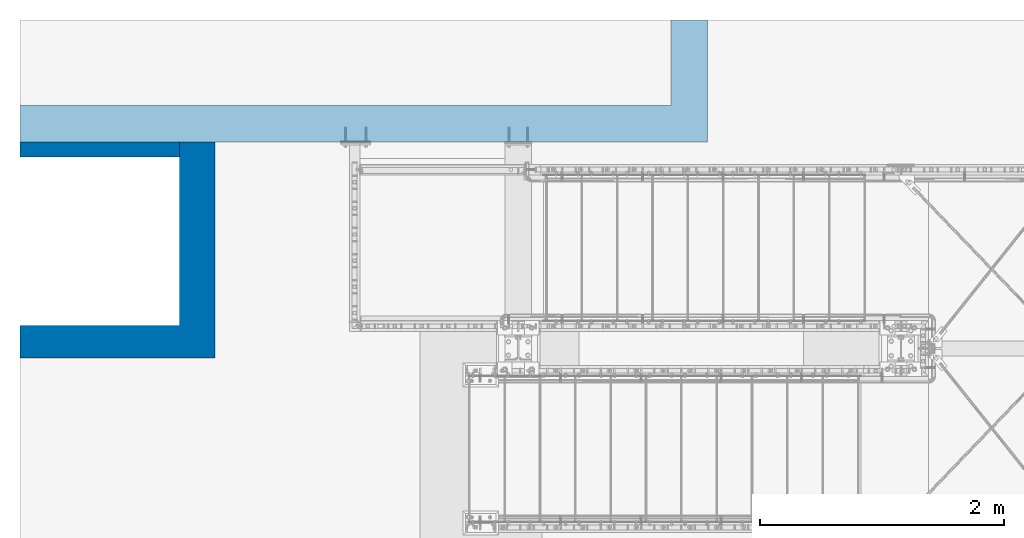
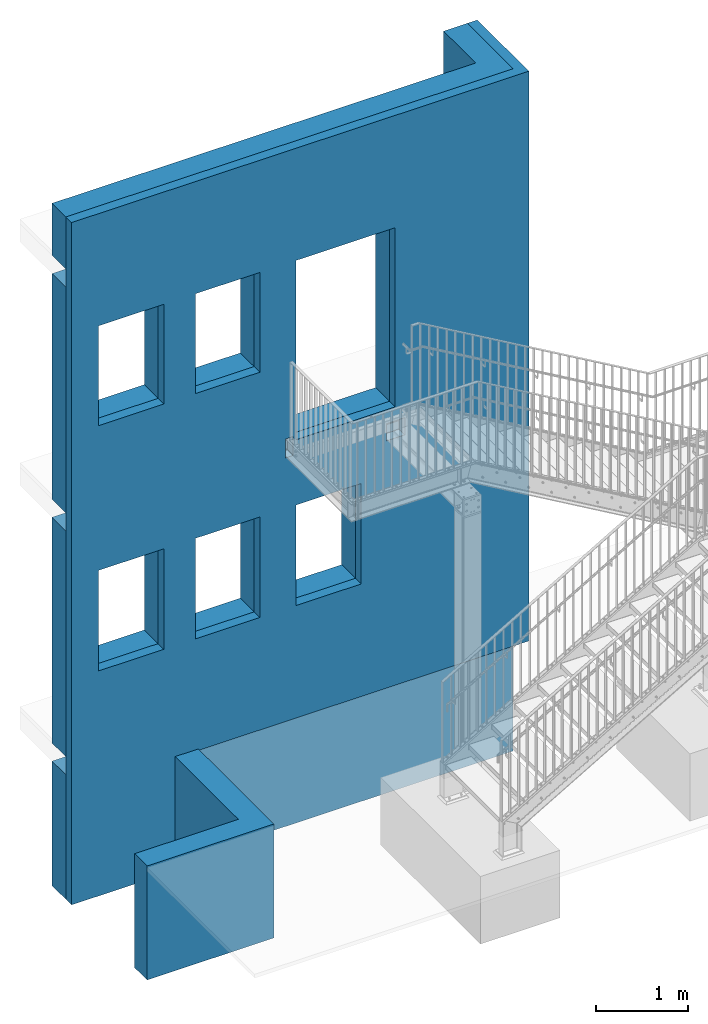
# One storey, part 28 of 145: 3 walls, 22 openings.
"""IFC2X3 building model written with IfcOpenShell, lengths in millimetres."""

from ifc_helpers import new_model, entity, si_unit, converted_unit, frame, origin, origin_with_axes, place, context, project, spatial, polyline, outline, extrude, material, layer, layer_set, element, save


model = new_model("IFC2X3")

# Units and contexts
model_context = context("Model", 3, precision=1e-09, world=origin_with_axes())
ifc_project = project(units=[si_unit("LENGTHUNIT", "METRE", prefix="MILLI"), si_unit("AREAUNIT", "SQUARE_METRE"), si_unit("VOLUMEUNIT", "CUBIC_METRE"), converted_unit("PLANEANGLEUNIT", "DEGREE", entity("IfcPlaneAngleMeasure", 0.01745329), si_unit("PLANEANGLEUNIT", "RADIAN"), dimensions=[0, 0, 0, 0, 0, 0, 0])], contexts=[model_context])

# Site, building, storey
site_placement = place(None, origin_with_axes())
site = spatial("IfcSite", under=ifc_project, at=site_placement, Name="BZ1 Grund- und Mittelschule 85716 Unterschlei?heim", CompositionType="ELEMENT")
building_placement = place(site_placement, origin_with_axes())
building = spatial("IfcBuilding", under=site, at=building_placement, Name="Struktur 1", CompositionType="ELEMENT")
storey_placement = place(building_placement, origin_with_axes())
storey = spatial("IfcBuildingStorey", under=building, at=storey_placement, Name="Default Storey", CompositionType="ELEMENT", Elevation=0.0)

# Wall, openings
ifc_material = material(Name="C25/30")
ifc_layer_1 = layer(ifc_material, 1125.0)
ifc_layer_set_1 = layer_set([ifc_layer_1], Name="C25/30")
wall_1_placement = place(None, frame((15866.648972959, -125.0, 2587.974536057), z_axis=(0.0, 1.0, 0.0), x_axis=(-1.0, 0.0, 0.0)))
wall_1 = element("IfcWall", 1, at=wall_1_placement, inside=storey, material=ifc_layer_set_1, Name="Gokoba_D?mmung", ObjectType="Gokoba_D?mmung", context=model_context, shape_type="SweptSolid", body=[
    extrude(outline(polyline([(-2883.195754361, -4547.974536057), (2883.195754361, -4547.974536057), (2883.195754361, 4547.974536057), (-2883.195754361, 4547.974536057), (-2883.195754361, -4547.974536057)])), origin_with_axes(), (0.0, 0.0, 1.0), 1125.0),
])
opening_1_placement = place(wall_1_placement, frame((0.0, -4548.074536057, 562.5), z_axis=(0.0, 1.0, 0.0), x_axis=(-1.0, 0.0, 0.0)))
element("IfcOpeningElement", 2, at=opening_1_placement, cuts=wall_1, ObjectType="Opening", context=model_context, shape_type="SweptSolid", body=[
    extrude(outline(polyline([(-4000.690652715, -437.501), (2758.196754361, -437.501), (2758.196754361, 1320.4875142), (-4000.690652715, 1320.4875142), (-4000.690652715, -437.501)])), origin(), (0.0, 0.0, 1.0), 9096.149072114),
])
opening_2_placement = place(wall_1_placement, frame((0.0, 0.0, 1125.1), z_axis=(0.0, 0.0, -1.0), x_axis=(-1.0, 0.0, 0.0)))
element("IfcOpeningElement", 3, at=opening_2_placement, cuts=wall_1, ObjectType="Opening", context=model_context, shape_type="SweptSolid", body=[
    extrude(outline(polyline([(-51.804245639, 662.024463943), (1198.197754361, 662.024463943), (1198.197754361, 3052.026463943), (-51.804245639, 3052.026463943), (-51.804245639, 662.024463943)])), origin(), (0.0, 0.0, 1.0), 1125.2),
])
opening_3_placement = place(wall_1_placement, frame((0.0, 0.0, 1125.1), z_axis=(0.0, 0.0, -1.0), x_axis=(-1.0, 0.0, 0.0)))
element("IfcOpeningElement", 4, at=opening_3_placement, cuts=wall_1, ObjectType="Opening", context=model_context, shape_type="SweptSolid", body=[
    extrude(outline(polyline([(-1321.792940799, 1722.024463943), (-508.998175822, 1722.024463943), (-508.998175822, 3052.026463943), (-1321.792940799, 3052.026463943), (-1321.792940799, 1722.024463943)])), origin(), (0.0, 0.0, 1.0), 1125.2),
])
opening_4_placement = place(wall_1_placement, frame((0.0, 0.0, 1125.1), z_axis=(0.0, 0.0, -1.0), x_axis=(-1.0, 0.0, 0.0)))
element("IfcOpeningElement", 5, at=opening_4_placement, cuts=wall_1, ObjectType="Opening", context=model_context, shape_type="SweptSolid", body=[
    extrude(outline(polyline([(-2540.845664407, 1722.024463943), (-1719.72073216, 1722.024463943), (-1719.72073216, 3052.026463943), (-2540.845664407, 3052.026463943), (-2540.845664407, 1722.024463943)])), origin(), (0.0, 0.0, 1.0), 1125.2),
])
opening_5_placement = place(wall_1_placement, frame((0.0, 0.0, 1125.1), z_axis=(0.0, 0.0, -1.0), x_axis=(-1.0, 0.0, 0.0)))
element("IfcOpeningElement", 6, at=opening_5_placement, cuts=wall_1, ObjectType="Opening", context=model_context, shape_type="SweptSolid", body=[
    extrude(outline(polyline([(-2540.845664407, -1547.975536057), (-1719.72073216, -1547.975536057), (-1719.72073216, -207.973536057), (-2540.845664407, -207.973536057), (-2540.845664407, -1547.975536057)])), origin(), (0.0, 0.0, 1.0), 1125.2),
])
opening_6_placement = place(wall_1_placement, frame((0.0, 0.0, 1125.1), z_axis=(0.0, 0.0, -1.0), x_axis=(-1.0, 0.0, 0.0)))
element("IfcOpeningElement", 7, at=opening_6_placement, cuts=wall_1, ObjectType="Opening", context=model_context, shape_type="SweptSolid", body=[
    extrude(outline(polyline([(-1321.792940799, -1547.975536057), (-508.998175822, -1547.975536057), (-508.998175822, -207.973536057), (-1321.792940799, -207.973536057), (-1321.792940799, -1547.975536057)])), origin(), (0.0, 0.0, 1.0), 1125.2),
])
opening_7_placement = place(wall_1_placement, frame((0.0, 0.0, 1125.1), z_axis=(0.0, 0.0, -1.0), x_axis=(-1.0, 0.0, 0.0)))
element("IfcOpeningElement", 8, at=opening_7_placement, cuts=wall_1, ObjectType="Opening", context=model_context, shape_type="SweptSolid", body=[
    extrude(outline(polyline([(-51.804245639, -1547.975536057), (769.457111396, -1547.975536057), (769.457111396, -207.973536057), (-51.804245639, -207.973536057), (-51.804245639, -1547.975536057)])), origin(), (0.0, 0.0, 1.0), 1125.2),
])
opening_8_placement = place(wall_1_placement, frame((0.0, 0.0, 1125.1), z_axis=(0.0, 0.0, -1.0), x_axis=(-1.0, 0.0, 0.0)))
element("IfcOpeningElement", 9, at=opening_8_placement, cuts=wall_1, ObjectType="Opening", context=model_context, shape_type="SweptSolid", body=[
    extrude(outline(polyline([(-1575.804245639, -5789.999608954), (3597.215970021, -5789.999608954), (3597.215970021, -3047.973536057), (-1575.804245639, -3047.973536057), (-1575.804245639, -5789.999608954)])), origin(), (0.0, 0.0, 1.0), 1125.2),
])
opening_9_placement = place(wall_1_placement, frame((0.0, 0.0, 1125.1), z_axis=(0.0, 0.0, -1.0), x_axis=(-1.0, 0.0, 0.0)))
element("IfcOpeningElement", 10, at=opening_9_placement, cuts=wall_1, ObjectType="Opening", context=model_context, shape_type="SweptSolid", body=[
    extrude(outline(polyline([(-1575.804245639, -4910.426436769), (-1283.803245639, -4910.426436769), (-1283.803245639, -3027.973536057), (-1575.804245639, -3027.973536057), (-1575.804245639, -4910.426436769)])), origin(), (0.0, 0.0, 1.0), 1125.2),
])
opening_10_placement = place(wall_1_placement, frame((0.0, 0.0, 1125.1), z_axis=(0.0, 0.0, -1.0), x_axis=(-1.0, 0.0, 0.0)))
element("IfcOpeningElement", 11, at=opening_10_placement, cuts=wall_1, ObjectType="Opening", context=model_context, shape_type="SweptSolid", body=[
    extrude(outline(polyline([(1089.194754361, 247.024463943), (1319.196754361, 247.024463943), (1319.196754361, 477.026463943), (1089.194754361, 477.026463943), (1089.194754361, 247.024463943)])), origin(), (0.0, 0.0, 1.0), 1125.2),
])
opening_11_placement = place(wall_1_placement, frame((0.0, 0.0, 1125.1), z_axis=(0.0, 0.0, -1.0), x_axis=(-1.0, 0.0, 0.0)))
element("IfcOpeningElement", 12, at=opening_11_placement, cuts=wall_1, ObjectType="Opening", context=model_context, shape_type="SweptSolid", body=[
    extrude(outline(polyline([(-185.806245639, 467.024463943), (-90.804245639, 467.024463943), (-90.804245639, 717.026464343), (-185.806245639, 717.026464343), (-185.806245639, 467.024463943)])), origin(), (0.0, 0.0, 1.0), 1125.2),
])

ifc_layer_2 = layer(ifc_material, 1000.0)
ifc_layer_set_2 = layer_set([ifc_layer_2], Name="C25/30")
wall_2_placement = place(None, frame((15804.148972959, 0.0, 2587.974536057), z_axis=(0.0, 1.0, 0.0), x_axis=(-1.0, 0.0, 0.0)))
wall_2 = element("IfcWall", 13, at=wall_2_placement, inside=storey, material=ifc_layer_set_2, Name="Gokoba_Mauerwerk", ObjectType="Gokoba_Mauerwerk", context=model_context, shape_type="SweptSolid", body=[
    extrude(outline(polyline([(-2820.695754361, -4547.974536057), (2820.695754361, -4547.974536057), (2820.695754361, 4547.974536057), (-2820.695754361, 4547.974536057), (-2820.695754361, -4547.974536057)])), origin_with_axes(), (0.0, 0.0, 1.0), 1000.0),
])
opening_12_placement = place(wall_2_placement, frame((0.0, -4548.074536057, 500.0), z_axis=(0.0, 1.0, 0.0), x_axis=(-1.0, 0.0, 0.0)))
element("IfcOpeningElement", 14, at=opening_12_placement, cuts=wall_2, ObjectType="Opening", context=model_context, shape_type="SweptSolid", body=[
    extrude(outline(polyline([(-4000.690652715, -200.001), (2520.696754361, -200.001), (2520.696754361, 1320.4875142), (-4000.690652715, 1320.4875142), (-4000.690652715, -200.001)])), origin(), (0.0, 0.0, 1.0), 9096.149072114),
])
opening_13_placement = place(wall_2_placement, frame((0.0, 0.0, 1000.1), z_axis=(0.0, 0.0, -1.0), x_axis=(-1.0, 0.0, 0.0)))
element("IfcOpeningElement", 15, at=opening_13_placement, cuts=wall_2, ObjectType="Opening", context=model_context, shape_type="SweptSolid", body=[
    extrude(outline(polyline([(10.695754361, 662.024463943), (1260.697754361, 662.024463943), (1260.697754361, 3052.027463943), (10.695754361, 3052.027463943), (10.695754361, 662.024463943)])), origin(), (0.0, 0.0, 1.0), 1000.2),
])
opening_14_placement = place(wall_2_placement, frame((0.0, 0.0, 1000.1), z_axis=(0.0, 0.0, -1.0), x_axis=(-1.0, 0.0, 0.0)))
element("IfcOpeningElement", 16, at=opening_14_placement, cuts=wall_2, ObjectType="Opening", context=model_context, shape_type="SweptSolid", body=[
    extrude(outline(polyline([(-1259.292940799, 1722.023463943), (-446.498175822, 1722.023463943), (-446.498175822, 3052.027463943), (-1259.292940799, 3052.027463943), (-1259.292940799, 1722.023463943)])), origin(), (0.0, 0.0, 1.0), 1000.2),
])
opening_15_placement = place(wall_2_placement, frame((0.0, 0.0, 1000.1), z_axis=(0.0, 0.0, -1.0), x_axis=(-1.0, 0.0, 0.0)))
element("IfcOpeningElement", 17, at=opening_15_placement, cuts=wall_2, ObjectType="Opening", context=model_context, shape_type="SweptSolid", body=[
    extrude(outline(polyline([(-2478.345664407, 1722.023463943), (-1657.22073216, 1722.023463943), (-1657.22073216, 3052.026463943), (-2478.345664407, 3052.026463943), (-2478.345664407, 1722.023463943)])), origin(), (0.0, 0.0, 1.0), 1000.2),
])
opening_16_placement = place(wall_2_placement, frame((0.0, 0.0, 1000.1), z_axis=(0.0, 0.0, -1.0), x_axis=(-1.0, 0.0, 0.0)))
element("IfcOpeningElement", 18, at=opening_16_placement, cuts=wall_2, ObjectType="Opening", context=model_context, shape_type="SweptSolid", body=[
    extrude(outline(polyline([(10.694754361, -1547.976536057), (831.958111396, -1547.976536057), (831.958111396, -207.973536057), (10.694754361, -207.973536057), (10.694754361, -1547.976536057)])), origin(), (0.0, 0.0, 1.0), 1000.2),
])
opening_17_placement = place(wall_2_placement, frame((0.0, 0.0, 1000.1), z_axis=(0.0, 0.0, -1.0), x_axis=(-1.0, 0.0, 0.0)))
element("IfcOpeningElement", 19, at=opening_17_placement, cuts=wall_2, ObjectType="Opening", context=model_context, shape_type="SweptSolid", body=[
    extrude(outline(polyline([(-1259.293940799, -1547.976536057), (-446.498175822, -1547.976536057), (-446.498175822, -207.973536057), (-1259.293940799, -207.973536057), (-1259.293940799, -1547.976536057)])), origin(), (0.0, 0.0, 1.0), 1000.2),
])
opening_18_placement = place(wall_2_placement, frame((0.0, 0.0, 1000.1), z_axis=(0.0, 0.0, -1.0), x_axis=(-1.0, 0.0, 0.0)))
element("IfcOpeningElement", 20, at=opening_18_placement, cuts=wall_2, ObjectType="Opening", context=model_context, shape_type="SweptSolid", body=[
    extrude(outline(polyline([(-2478.346664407, -1547.976536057), (-1657.22073216, -1547.976536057), (-1657.22073216, -207.973536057), (-2478.346664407, -207.973536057), (-2478.346664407, -1547.976536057)])), origin(), (0.0, 0.0, 1.0), 1000.2),
])
opening_19_placement = place(wall_2_placement, frame((-2820.795754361, 0.0, 500.0), z_axis=(1.0, 0.0, 0.0), x_axis=(0.0, 0.0, -1.0)))
element("IfcOpeningElement", 21, at=opening_19_placement, cuts=wall_2, ObjectType="Opening", context=model_context, shape_type="SweptSolid", body=[
    extrude(outline(polyline([(-671.462676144, 362.024463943), (578.415844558, 362.024463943), (578.415844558, 602.026463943), (-671.462676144, 602.026463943), (-671.462676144, 362.024463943)])), origin(), (0.0, 0.0, 1.0), 5641.591508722),
])
opening_20_placement = place(wall_2_placement, frame((-2820.795754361, 0.0, 500.0), z_axis=(1.0, 0.0, 0.0), x_axis=(0.0, 0.0, -1.0)))
element("IfcOpeningElement", 22, at=opening_20_placement, cuts=wall_2, ObjectType="Opening", context=model_context, shape_type="SweptSolid", body=[
    extrude(outline(polyline([(-848.483521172, 3612.024463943), (757.746824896, 3612.024463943), (757.746824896, 3852.026463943), (-848.483521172, 3852.026463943), (-848.483521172, 3612.024463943)])), origin(), (0.0, 0.0, 1.0), 5641.591508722),
])
opening_21_placement = place(wall_2_placement, frame((-2820.795754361, 0.0, 500.0), z_axis=(1.0, 0.0, 0.0), x_axis=(0.0, 0.0, -1.0)))
element("IfcOpeningElement", 23, at=opening_21_placement, cuts=wall_2, ObjectType="Opening", context=model_context, shape_type="SweptSolid", body=[
    extrude(outline(polyline([(-787.079362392, -2887.975536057), (943.443967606, -2887.975536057), (943.443967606, -2647.973536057), (-787.079362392, -2647.973536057), (-787.079362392, -2887.975536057)])), origin(), (0.0, 0.0, 1.0), 5641.591508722),
])

# Wall, opening
ifc_layer_3 = layer(ifc_material, 1775.0)
ifc_layer_set_3 = layer_set([ifc_layer_3], Name="C25/30")
wall_3_placement = place(None, frame((13783.148972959, 0.0, -1200.0), z_axis=(0.0, -1.0, 0.0), x_axis=(1.0, 0.0, 0.0)))
wall_3 = element("IfcWall", 24, at=wall_3_placement, inside=storey, material=ifc_layer_set_3, Name="-", ObjectType="-", context=model_context, shape_type="SweptSolid", body=[
    extrude(outline(polyline([(-799.695754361, -760.0), (799.695754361, -760.0), (799.695754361, 760.0), (-799.695754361, 760.0), (-799.695754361, -760.0)])), origin_with_axes(), (0.0, 0.0, 1.0), 1775.0),
])
opening_22_placement = place(wall_3_placement, frame((0.0, -760.1, 887.5), z_axis=(0.0, 1.0, 0.0), x_axis=(1.0, 0.0, 0.0)))
element("IfcOpeningElement", 25, at=opening_22_placement, cuts=wall_3, ObjectType="Opening", context=model_context, shape_type="SweptSolid", body=[
    extrude(outline(polyline([(-1176.623515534, -617.501), (507.696754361, -617.501), (507.696754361, 1241.427701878), (-1176.623515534, 1241.427701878), (-1176.623515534, -617.501)])), origin(), (0.0, 0.0, 1.0), 1520.2),
])

save(model, "model.ifc")
